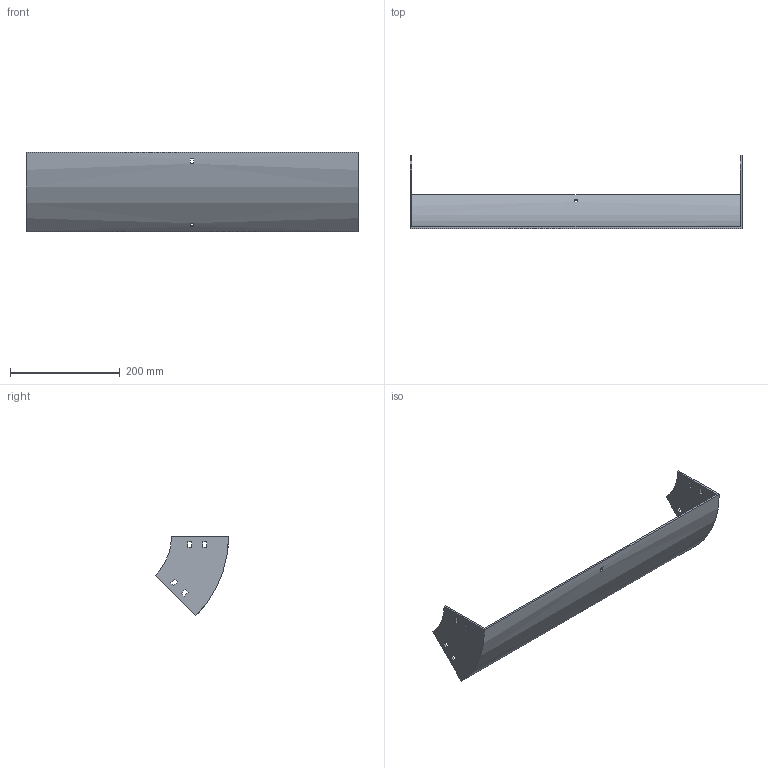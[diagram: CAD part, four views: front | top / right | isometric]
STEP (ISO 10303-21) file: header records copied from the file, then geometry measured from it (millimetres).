
FILE_DESCRIPTION (( 'STEP AP214' ), '1' );
FILE_NAME ('31B1D600.step', '2025-02-21T09:45:54', ( '' ), ( '' ), 'SwSTEP 2.0', 'SolidWorks 2023', '' );
FILE_SCHEMA (( 'AUTOMOTIVE_DESIGN' ));
Length unit declared in the file: millimetre
Products named in the file (1): 31B1D600
Bounding box: 604 x 133.29 x 144.25 mm (x, y, z)
Volume: 416448.5 mm3; surface area: 245334.7 mm2
Topology: 1 solids, 1 shells, 50 faces, 144 edges, 96 vertices
Faces by surface type: plane 46, cylinder 4
Entity records: 1687 total; most frequent: CARTESIAN_POINT 291, ORIENTED_EDGE 288, DIRECTION 262, EDGE_CURVE 144, LINE 128, VECTOR 128, VERTEX_POINT 96, EDGE_LOOP 70
